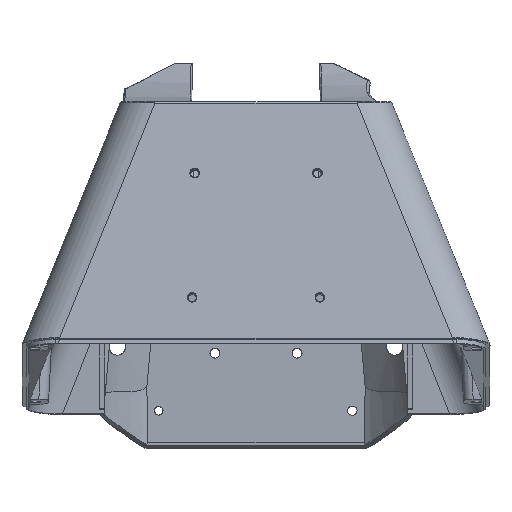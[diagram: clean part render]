
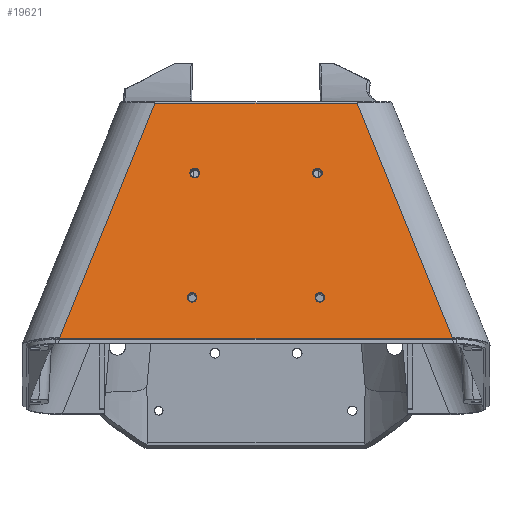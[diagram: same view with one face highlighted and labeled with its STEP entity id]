
A CAD part, top view. The second image highlights one B-rep face of the part: STEP entity #19621.
In plain terms, the highlighted planar face has unit normal (0, 0.174, 0.985).
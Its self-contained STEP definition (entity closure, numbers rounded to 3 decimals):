
#904=DIRECTION('',(1.,0.,0.));
#905=VECTOR('',#904,73.142);
#906=CARTESIAN_POINT('',(-36.404,54.874,582.83));
#907=LINE('',#906,#905);
#908=DIRECTION('',(0.371,-0.914,0.161));
#909=VECTOR('',#908,92.642);
#910=CARTESIAN_POINT('',(36.738,54.874,582.83));
#911=LINE('',#910,#909);
#912=DIRECTION('',(0.,-0.985,0.174));
#913=VECTOR('',#912,0.374);
#914=CARTESIAN_POINT('',(71.144,-29.836,597.767));
#915=LINE('',#914,#913);
#916=DIRECTION('',(-1.,0.,0.));
#917=VECTOR('',#916,141.955);
#918=CARTESIAN_POINT('',(71.144,-30.204,597.832));
#919=LINE('',#918,#917);
#920=DIRECTION('',(0.,0.985,-0.174));
#921=VECTOR('',#920,0.374);
#922=CARTESIAN_POINT('',(-70.81,-30.204,597.832));
#923=LINE('',#922,#921);
#924=DIRECTION('',(0.371,0.914,-0.161));
#925=VECTOR('',#924,92.642);
#926=CARTESIAN_POINT('',(-70.81,-29.836,597.767));
#927=LINE('',#926,#925);
#928=CARTESIAN_POINT('',(22.335,29.563,587.293));
#929=DIRECTION('',(0.,0.174,0.985));
#930=DIRECTION('',(0.,0.985,-0.174));
#931=AXIS2_PLACEMENT_3D('',#928,#929,#930);
#933=CARTESIAN_POINT('',(22.335,29.563,587.293));
#934=DIRECTION('',(0.,0.174,0.985));
#935=DIRECTION('',(-0.307,0.937,-0.165));
#936=AXIS2_PLACEMENT_3D('',#933,#934,#935);
#938=CARTESIAN_POINT('',(22.335,29.563,587.293));
#939=DIRECTION('',(0.,0.174,0.985));
#940=DIRECTION('',(0.,-0.985,0.174));
#941=AXIS2_PLACEMENT_3D('',#938,#939,#940);
#943=CARTESIAN_POINT('',(22.335,29.563,587.293));
#944=DIRECTION('',(0.,0.174,0.985));
#945=DIRECTION('',(0.307,-0.937,0.165));
#946=AXIS2_PLACEMENT_3D('',#943,#944,#945);
#948=CARTESIAN_POINT('',(23.245,-15.418,595.224));
#949=DIRECTION('',(0.,0.174,0.985));
#950=DIRECTION('',(0.,0.985,-0.174));
#951=AXIS2_PLACEMENT_3D('',#948,#949,#950);
#953=CARTESIAN_POINT('',(23.245,-15.418,595.224));
#954=DIRECTION('',(0.,0.174,0.985));
#955=DIRECTION('',(-0.307,0.937,-0.165));
#956=AXIS2_PLACEMENT_3D('',#953,#954,#955);
#958=CARTESIAN_POINT('',(23.245,-15.418,595.224));
#959=DIRECTION('',(0.,0.174,0.985));
#960=DIRECTION('',(0.,-0.985,0.174));
#961=AXIS2_PLACEMENT_3D('',#958,#959,#960);
#963=CARTESIAN_POINT('',(23.245,-15.418,595.224));
#964=DIRECTION('',(0.,0.174,0.985));
#965=DIRECTION('',(0.307,-0.937,0.165));
#966=AXIS2_PLACEMENT_3D('',#963,#964,#965);
#968=CARTESIAN_POINT('',(-22.001,29.563,587.293));
#969=DIRECTION('',(0.,0.174,0.985));
#970=DIRECTION('',(0.,0.985,-0.174));
#971=AXIS2_PLACEMENT_3D('',#968,#969,#970);
#973=CARTESIAN_POINT('',(-22.001,29.563,587.293));
#974=DIRECTION('',(0.,0.174,0.985));
#975=DIRECTION('',(0.,-0.985,0.174));
#976=AXIS2_PLACEMENT_3D('',#973,#974,#975);
#978=CARTESIAN_POINT('',(-22.911,-15.418,595.224));
#979=DIRECTION('',(0.,0.174,0.985));
#980=DIRECTION('',(0.,0.985,-0.174));
#981=AXIS2_PLACEMENT_3D('',#978,#979,#980);
#983=CARTESIAN_POINT('',(-22.911,-15.418,595.224));
#984=DIRECTION('',(0.,0.174,0.985));
#985=DIRECTION('',(0.,-0.985,0.174));
#986=AXIS2_PLACEMENT_3D('',#983,#984,#985);
#16780=CARTESIAN_POINT('',(71.144,-30.204,
597.832));
#16781=CARTESIAN_POINT('',(-70.81,-30.204,
597.832));
#16782=VERTEX_POINT('',#16780);
#16783=VERTEX_POINT('',#16781);
#16817=CARTESIAN_POINT('',(-36.404,54.874,
582.83));
#16818=CARTESIAN_POINT('',(36.738,54.874,582.83));
#16819=VERTEX_POINT('',#16817);
#16820=VERTEX_POINT('',#16818);
#16821=CARTESIAN_POINT('',(71.144,-29.836,
597.767));
#16822=VERTEX_POINT('',#16821);
#16823=CARTESIAN_POINT('',(-70.81,-29.836,
597.767));
#16824=VERTEX_POINT('',#16823);
#16825=CARTESIAN_POINT('',(22.335,31.287,586.989));
#16826=CARTESIAN_POINT('',(21.798,31.204,587.004));
#16827=VERTEX_POINT('',#16825);
#16828=VERTEX_POINT('',#16826);
#16829=CARTESIAN_POINT('',(22.335,27.84,587.597));
#16830=VERTEX_POINT('',#16829);
#16831=CARTESIAN_POINT('',(22.872,27.923,587.582));
#16832=VERTEX_POINT('',#16831);
#16833=CARTESIAN_POINT('',(23.245,-13.695,
594.921));
#16834=CARTESIAN_POINT('',(22.708,-13.778,
594.935));
#16835=VERTEX_POINT('',#16833);
#16836=VERTEX_POINT('',#16834);
#16837=CARTESIAN_POINT('',(23.245,-17.142,
595.528));
#16838=VERTEX_POINT('',#16837);
#16839=CARTESIAN_POINT('',(23.782,-17.058,
595.514));
#16840=VERTEX_POINT('',#16839);
#16841=CARTESIAN_POINT('',(-22.001,31.287,
586.989));
#16842=CARTESIAN_POINT('',(-22.001,27.84,
587.597));
#16843=VERTEX_POINT('',#16841);
#16844=VERTEX_POINT('',#16842);
#16845=CARTESIAN_POINT('',(-22.911,-13.695,
594.921));
#16846=CARTESIAN_POINT('',(-22.911,-17.142,
595.528));
#16847=VERTEX_POINT('',#16845);
#16848=VERTEX_POINT('',#16846);
#19571=CARTESIAN_POINT('',(0.167,-42.908,
600.072));
#19572=DIRECTION('',(0.,0.174,0.985));
#19573=DIRECTION('',(0.,0.985,-0.174));
#19574=AXIS2_PLACEMENT_3D('',#19571,#19572,#19573);
#19575=PLANE('',#19574);
#19577=ORIENTED_EDGE('',*,*,#19576,.T.);
#19579=ORIENTED_EDGE('',*,*,#19578,.T.);
#19581=ORIENTED_EDGE('',*,*,#19580,.T.);
#19582=ORIENTED_EDGE('',*,*,#19517,.T.);
#19584=ORIENTED_EDGE('',*,*,#19583,.T.);
#19586=ORIENTED_EDGE('',*,*,#19585,.T.);
#19587=EDGE_LOOP('',(#19577,#19579,#19581,#19582,#19584,#19586));
#19588=FACE_OUTER_BOUND('',#19587,.F.);
#19590=ORIENTED_EDGE('',*,*,#19589,.T.);
#19592=ORIENTED_EDGE('',*,*,#19591,.T.);
#19594=ORIENTED_EDGE('',*,*,#19593,.T.);
#19596=ORIENTED_EDGE('',*,*,#19595,.T.);
#19597=EDGE_LOOP('',(#19590,#19592,#19594,#19596));
#19598=FACE_BOUND('',#19597,.F.);
#19600=ORIENTED_EDGE('',*,*,#19599,.T.);
#19602=ORIENTED_EDGE('',*,*,#19601,.T.);
#19604=ORIENTED_EDGE('',*,*,#19603,.T.);
#19606=ORIENTED_EDGE('',*,*,#19605,.T.);
#19607=EDGE_LOOP('',(#19600,#19602,#19604,#19606));
#19608=FACE_BOUND('',#19607,.F.);
#19610=ORIENTED_EDGE('',*,*,#19609,.T.);
#19612=ORIENTED_EDGE('',*,*,#19611,.T.);
#19613=EDGE_LOOP('',(#19610,#19612));
#19614=FACE_BOUND('',#19613,.F.);
#19616=ORIENTED_EDGE('',*,*,#19615,.T.);
#19618=ORIENTED_EDGE('',*,*,#19617,.T.);
#19619=EDGE_LOOP('',(#19616,#19618));
#19620=FACE_BOUND('',#19619,.F.);
#19621=ADVANCED_FACE('',(#19588,#19598,#19608,#19614,#19620),#19575,.T.);
#932=CIRCLE('',#931,1.75);
#937=CIRCLE('',#936,1.75);
#942=CIRCLE('',#941,1.75);
#947=CIRCLE('',#946,1.75);
#952=CIRCLE('',#951,1.75);
#957=CIRCLE('',#956,1.75);
#962=CIRCLE('',#961,1.75);
#967=CIRCLE('',#966,1.75);
#972=CIRCLE('',#971,1.75);
#977=CIRCLE('',#976,1.75);
#982=CIRCLE('',#981,1.75);
#987=CIRCLE('',#986,1.75);
#19517=EDGE_CURVE('',#16782,#16783,#919,.T.);
#19576=EDGE_CURVE('',#16819,#16820,#907,.T.);
#19578=EDGE_CURVE('',#16820,#16822,#911,.T.);
#19580=EDGE_CURVE('',#16822,#16782,#915,.T.);
#19583=EDGE_CURVE('',#16783,#16824,#923,.T.);
#19585=EDGE_CURVE('',#16824,#16819,#927,.T.);
#19589=EDGE_CURVE('',#16827,#16828,#932,.T.);
#19591=EDGE_CURVE('',#16828,#16830,#937,.T.);
#19593=EDGE_CURVE('',#16830,#16832,#942,.T.);
#19595=EDGE_CURVE('',#16832,#16827,#947,.T.);
#19599=EDGE_CURVE('',#16835,#16836,#952,.T.);
#19601=EDGE_CURVE('',#16836,#16838,#957,.T.);
#19603=EDGE_CURVE('',#16838,#16840,#962,.T.);
#19605=EDGE_CURVE('',#16840,#16835,#967,.T.);
#19609=EDGE_CURVE('',#16843,#16844,#972,.T.);
#19611=EDGE_CURVE('',#16844,#16843,#977,.T.);
#19615=EDGE_CURVE('',#16847,#16848,#982,.T.);
#19617=EDGE_CURVE('',#16848,#16847,#987,.T.);
